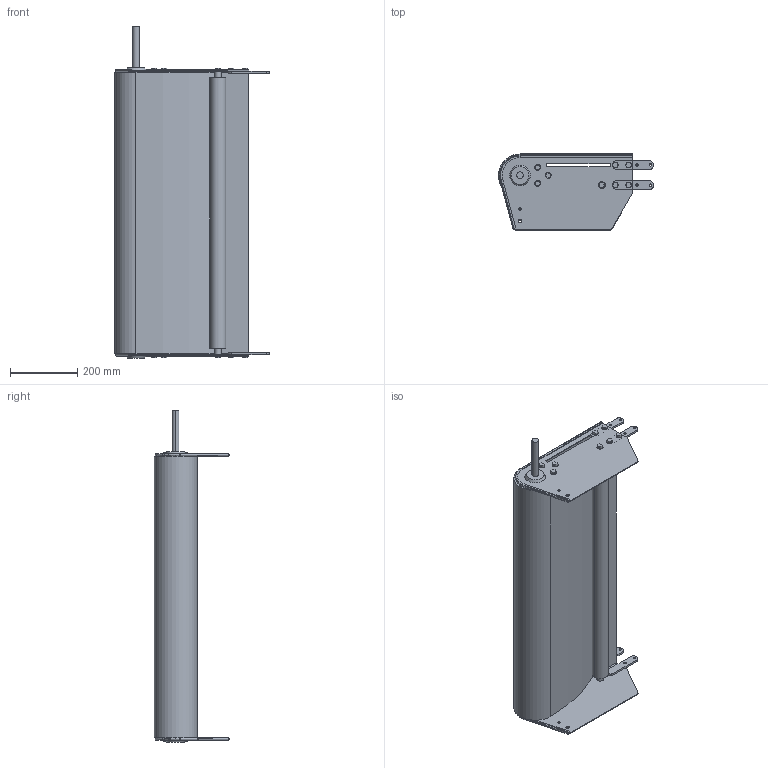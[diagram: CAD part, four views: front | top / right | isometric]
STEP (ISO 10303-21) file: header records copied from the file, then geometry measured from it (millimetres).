
FILE_DESCRIPTION (( 'STEP AP214' ), '1' );
FILE_NAME ('03.102D1L20.850 FS-850-MTS2-100.INOX Directe drive section left.STEP', '2025-02-04T12:36:43', ( '' ), ( '' ), 'SwSTEP 2.0', 'SolidWorks 2024', '' );
FILE_SCHEMA (( 'AUTOMOTIVE_DESIGN' ));
Length unit declared in the file: millimetre
Products named in the file (1): 03.102D1L20.850 FS-850-MTS2-100.INOX Directe drive section left
Bounding box: 461 x 225 x 989 mm (x, y, z)
Volume: 9824449.6 mm3; surface area: 2142134.1 mm2
Topology: 4 solids, 4 shells, 325 faces, 794 edges, 516 vertices
Faces by surface type: plane 223, cylinder 96, cone 4, torus 2
Entity records: 9602 total; most frequent: DIRECTION 1650, CARTESIAN_POINT 1636, ORIENTED_EDGE 1588, EDGE_CURVE 794, LINE 590, VECTOR 590, AXIS2_PLACEMENT_3D 530, VERTEX_POINT 516
